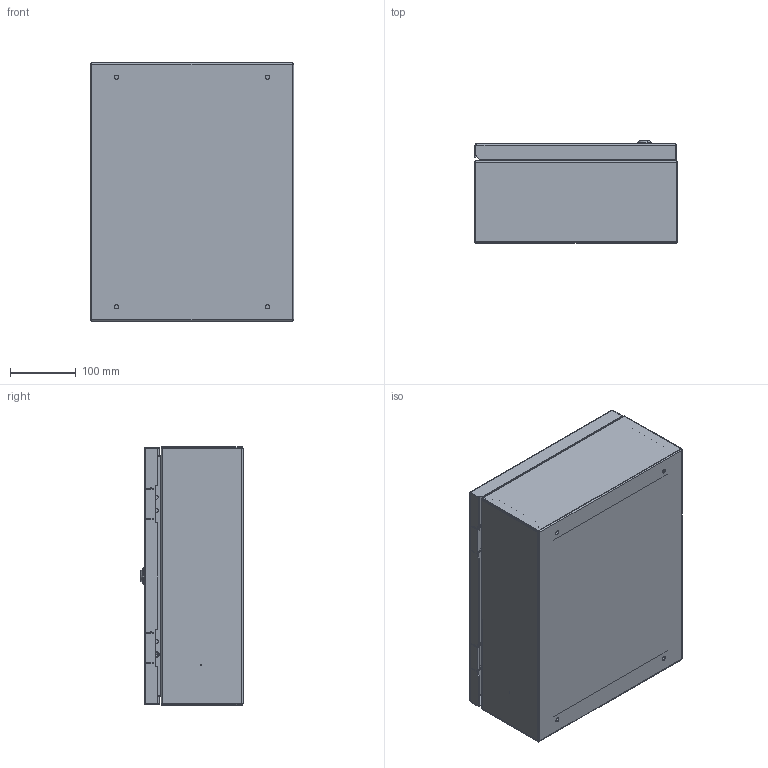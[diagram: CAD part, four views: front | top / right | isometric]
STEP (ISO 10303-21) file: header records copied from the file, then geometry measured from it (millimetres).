
FILE_DESCRIPTION (( 'STEP AP214' ), '1' );
FILE_NAME ('ÙÌÏ-1-1-395õ310õ150-IP31-ÓÕË3-ÊÝÀÇ.STEP', '2023-01-24T12:06:56', ( '' ), ( '' ), 'SwSTEP 2.0', 'SolidWorks 2018', '' );
FILE_SCHEMA (( 'AUTOMOTIVE_DESIGN' ));
Length unit declared in the file: millimetre
Products named in the file (1): ÙÌÏ-1-1-395õ310õ150-IP31-ÓÕË3-ÊÝÀÇ
Bounding box: 310 x 155.7 x 395 mm (x, y, z)
Surface area: 923558.8 mm2 (no closed solid volume)
Topology: 0 solids, 34 shells, 191 faces, 644 edges, 479 vertices
Faces by surface type: plane 102, cylinder 65, bspline 16, torus 4, cone 2, sphere 2
Entity records: 10219 total; most frequent: CARTESIAN_POINT 2659, DIRECTION 1110, ORIENTED_EDGE 930, EDGE_CURVE 644, VERTEX_POINT 479, LINE 394, VECTOR 394, AXIS2_PLACEMENT_3D 358
